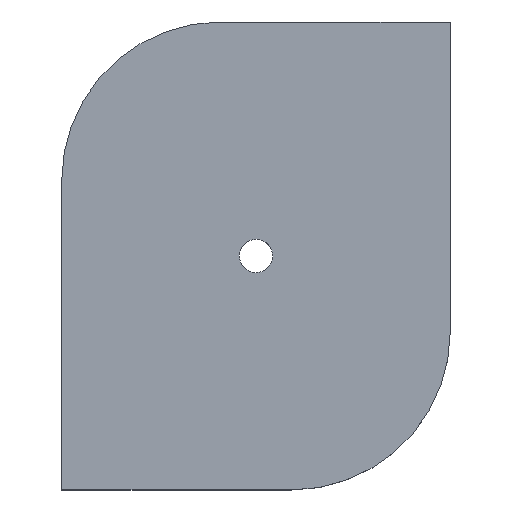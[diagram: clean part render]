
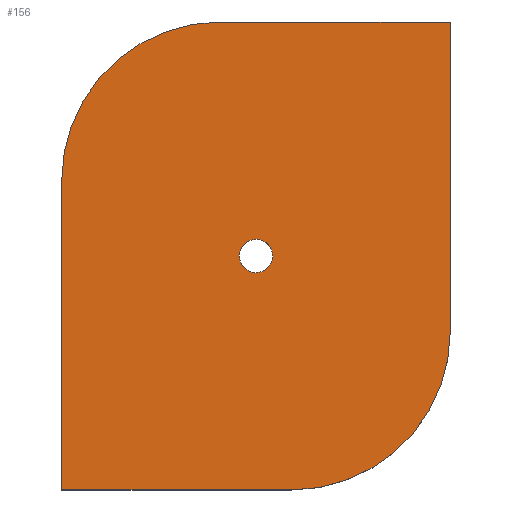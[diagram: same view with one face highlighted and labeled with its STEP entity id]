
A CAD part, top view. The second image highlights one B-rep face of the part: STEP entity #156.
In plain terms, the highlighted planar face has unit normal (0, 0, 1).
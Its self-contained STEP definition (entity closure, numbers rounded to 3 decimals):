
#63=CARTESIAN_POINT('Vertex',(45.325,61.008,13.)) ;
#77=CARTESIAN_POINT('Vertex',(52.675,56.992,13.)) ;
#80=CARTESIAN_POINT('Axis2P3D Location',(49.,59.,13.)) ;
#92=CARTESIAN_POINT('Axis2P3D Location',(0.,0.,13.)) ;
#97=CARTESIAN_POINT('Line Origine',(0.,39.,13.)) ;
#101=CARTESIAN_POINT('Vertex',(0.,78.,13.)) ;
#103=CARTESIAN_POINT('Vertex',(0.,0.,13.)) ;
#106=CARTESIAN_POINT('Line Origine',(29.,0.,13.)) ;
#110=CARTESIAN_POINT('Vertex',(58.,0.,13.)) ;
#113=CARTESIAN_POINT('Axis2P3D Location',(58.,40.,13.)) ;
#117=CARTESIAN_POINT('Vertex',(98.,40.,13.)) ;
#120=CARTESIAN_POINT('Line Origine',(98.,79.,13.)) ;
#124=CARTESIAN_POINT('Vertex',(98.,118.,13.)) ;
#127=CARTESIAN_POINT('Line Origine',(69.,118.,13.)) ;
#131=CARTESIAN_POINT('Vertex',(40.,118.,13.)) ;
#134=CARTESIAN_POINT('Axis2P3D Location',(40.,78.,13.)) ;
#147=CARTESIAN_POINT('Axis2P3D Location',(49.,59.,13.)) ;
#81=DIRECTION('Axis2P3D Direction',(0.,-0.,-1.)) ;
#93=DIRECTION('Axis2P3D Direction',(0.,0.,1.)) ;
#94=DIRECTION('Axis2P3D XDirection',(1.,0.,0.)) ;
#98=DIRECTION('Vector Direction',(0.,-1.,0.)) ;
#107=DIRECTION('Vector Direction',(1.,0.,0.)) ;
#114=DIRECTION('Axis2P3D Direction',(0.,0.,1.)) ;
#121=DIRECTION('Vector Direction',(0.,1.,0.)) ;
#128=DIRECTION('Vector Direction',(-1.,0.,0.)) ;
#135=DIRECTION('Axis2P3D Direction',(0.,0.,1.)) ;
#148=DIRECTION('Axis2P3D Direction',(0.,0.,1.)) ;
#82=AXIS2_PLACEMENT_3D('Circle Axis2P3D',#80,#81,$) ;
#95=AXIS2_PLACEMENT_3D('Plane Axis2P3D',#92,#93,#94) ;
#115=AXIS2_PLACEMENT_3D('Circle Axis2P3D',#113,#114,$) ;
#136=AXIS2_PLACEMENT_3D('Circle Axis2P3D',#134,#135,$) ;
#149=AXIS2_PLACEMENT_3D('Circle Axis2P3D',#147,#148,$) ;
#140=ORIENTED_EDGE('',*,*,#105,.T.) ;
#141=ORIENTED_EDGE('',*,*,#112,.T.) ;
#142=ORIENTED_EDGE('',*,*,#119,.F.) ;
#143=ORIENTED_EDGE('',*,*,#126,.T.) ;
#144=ORIENTED_EDGE('',*,*,#133,.T.) ;
#145=ORIENTED_EDGE('',*,*,#138,.F.) ;
#153=ORIENTED_EDGE('',*,*,#151,.F.) ;
#154=ORIENTED_EDGE('',*,*,#84,.F.) ;
#155=FACE_BOUND('',#152,.T.) ;
#99=VECTOR('Line Direction',#98,1.) ;
#108=VECTOR('Line Direction',#107,1.) ;
#122=VECTOR('Line Direction',#121,1.) ;
#129=VECTOR('Line Direction',#128,1.) ;
#156=ADVANCED_FACE('PartBody',(#146,#155),#96,.T.) ;
#83=CIRCLE('generated circle',#82,4.188) ;
#116=CIRCLE('generated circle',#115,40.) ;
#137=CIRCLE('generated circle',#136,40.) ;
#150=CIRCLE('generated circle',#149,4.188) ;
#84=EDGE_CURVE('',#78,#64,#83,.F.) ;
#105=EDGE_CURVE('',#102,#104,#100,.T.) ;
#112=EDGE_CURVE('',#104,#111,#109,.T.) ;
#119=EDGE_CURVE('',#118,#111,#116,.F.) ;
#126=EDGE_CURVE('',#118,#125,#123,.T.) ;
#133=EDGE_CURVE('',#125,#132,#130,.T.) ;
#138=EDGE_CURVE('',#102,#132,#137,.F.) ;
#151=EDGE_CURVE('',#64,#78,#150,.T.) ;
#139=EDGE_LOOP('',(#140,#141,#142,#143,#144,#145)) ;
#152=EDGE_LOOP('',(#153,#154)) ;
#146=FACE_OUTER_BOUND('',#139,.T.) ;
#100=LINE('Line',#97,#99) ;
#109=LINE('Line',#106,#108) ;
#123=LINE('Line',#120,#122) ;
#130=LINE('Line',#127,#129) ;
#96=PLANE('',#95) ;
#64=VERTEX_POINT('',#63) ;
#78=VERTEX_POINT('',#77) ;
#102=VERTEX_POINT('',#101) ;
#104=VERTEX_POINT('',#103) ;
#111=VERTEX_POINT('',#110) ;
#118=VERTEX_POINT('',#117) ;
#125=VERTEX_POINT('',#124) ;
#132=VERTEX_POINT('',#131) ;
